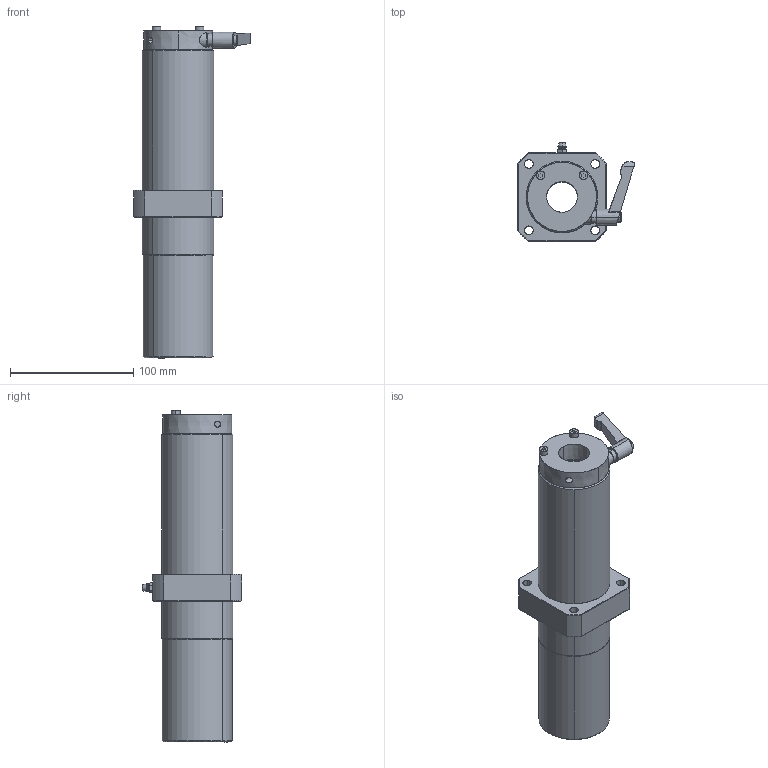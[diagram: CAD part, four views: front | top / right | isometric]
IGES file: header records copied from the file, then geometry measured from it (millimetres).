
Start section: SolidWorks IGES file using analytic representation for surfaces
Global section: file name: C:\Users\yamad\Desktop\IGES\LFWLC25-CS.IGS; native system: SolidWorks 2019; preprocessor: SolidWorks 2019; author: yamad; date: 230626.174259; units: millimetre
Bounding box: 94.6 x 80.4 x 269 mm (x, y, z)
Surface area: 97707.3 mm2 (no closed solid volume)
Topology: 0 solids, 0 shells, 264 faces, 5705 edges, 5703 vertices
Faces by surface type: bspline 135, revolution 129
